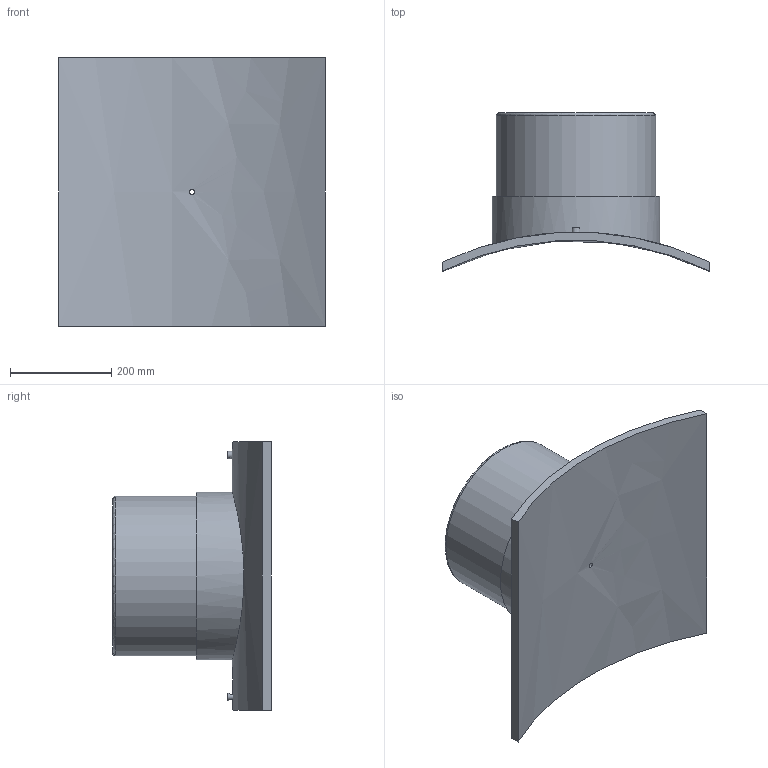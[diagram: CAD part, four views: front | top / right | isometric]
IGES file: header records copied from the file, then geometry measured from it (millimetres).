
Global section: file name: 4958031200315T.ipt; native system: Autodesk Inventor 2019; preprocessor: unknown; author: KIM; date: 20210225.095017; units: millimetre
Bounding box: 526 x 312.71 x 530 mm (x, y, z)
Volume: 12118265.3 mm3; surface area: 1060564.8 mm2
Topology: 2 solids, 2 shells, 29 faces, 54 edges, 38 vertices
Faces by surface type: plane 13, revolution 7, cylinder 7, cone 2
Full cylindrical faces by diameter (mm): 4 x2, 16 x1, 315 x1, 330.75 x1
